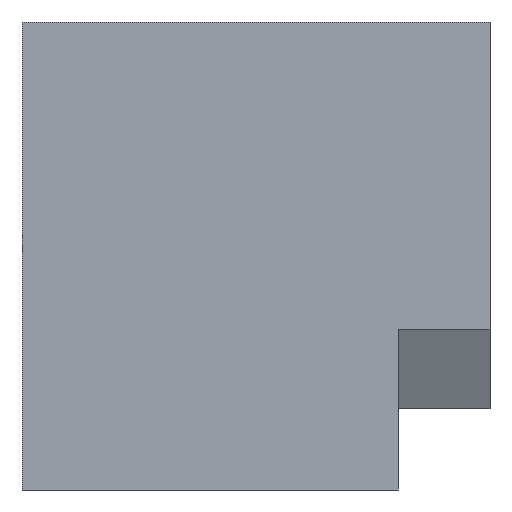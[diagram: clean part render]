
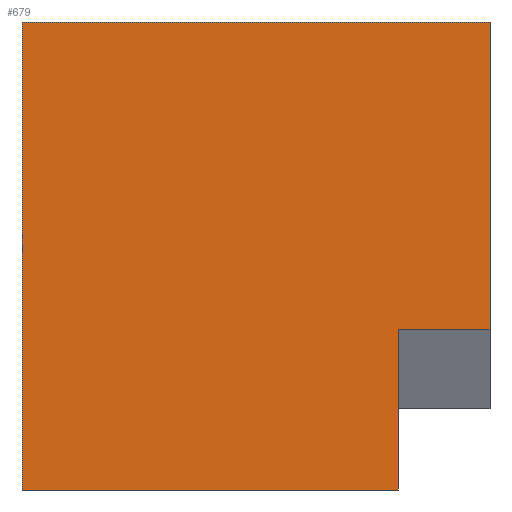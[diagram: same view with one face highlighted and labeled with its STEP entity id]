
A CAD part, left-side view. The second image highlights one B-rep face of the part: STEP entity #679.
In plain terms, the highlighted planar face has unit normal (-1, 0, 0).
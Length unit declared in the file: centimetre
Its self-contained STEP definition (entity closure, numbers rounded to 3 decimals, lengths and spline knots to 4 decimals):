
#14 = CARTESIAN_POINT ( 'NONE',  ( 0., 195.9836, 343.5773 ) ) ;
#33 = DIRECTION ( 'NONE',  ( 0., -1., 0. ) ) ;
#45 = VECTOR ( 'NONE', #234, 100. ) ;
#48 = ORIENTED_EDGE ( 'NONE', *, *, #692, .F. ) ;
#69 = CARTESIAN_POINT ( 'NONE',  ( 0., 1000., 1000. ) ) ;
#75 = VERTEX_POINT ( 'NONE', #476 ) ;
#82 = DIRECTION ( 'NONE',  ( 0., -1., 0. ) ) ;
#83 = EDGE_CURVE ( 'NONE', #136, #526, #254, .T. ) ;
#87 = LINE ( 'NONE', #686, #700 ) ;
#133 = DIRECTION ( 'NONE',  ( 0., 0., -1. ) ) ;
#136 = VERTEX_POINT ( 'NONE', #246 ) ;
#158 = VECTOR ( 'NONE', #521, 100. ) ;
#190 = CARTESIAN_POINT ( 'NONE',  ( 0., 195.9836, 343.5773 ) ) ;
#197 = CARTESIAN_POINT ( 'NONE',  ( 0., 1000., 1000. ) ) ;
#210 = EDGE_CURVE ( 'NONE', #464, #361, #245, .T. ) ;
#220 = CARTESIAN_POINT ( 'NONE',  ( 0., 0., 1000. ) ) ;
#234 = DIRECTION ( 'NONE',  ( 0., 0., -1. ) ) ;
#238 = VECTOR ( 'NONE', #343, 100. ) ;
#245 = LINE ( 'NONE', #190, #502 ) ;
#246 = CARTESIAN_POINT ( 'NONE',  ( 0., 1000., 1000. ) ) ;
#254 = LINE ( 'NONE', #197, #158 ) ;
#281 = CARTESIAN_POINT ( 'NONE',  ( 0., 1000., 0. ) ) ;
#343 = DIRECTION ( 'NONE',  ( 0., 0., -1. ) ) ;
#361 = VERTEX_POINT ( 'NONE', #368 ) ;
#363 = ORIENTED_EDGE ( 'NONE', *, *, #588, .T. ) ;
#368 = CARTESIAN_POINT ( 'NONE',  ( 0., 0., 343.5773 ) ) ;
#394 = LINE ( 'NONE', #14, #238 ) ;
#395 = VECTOR ( 'NONE', #82, 100. ) ;
#450 = PLANE ( 'NONE',  #574 ) ;
#452 = VERTEX_POINT ( 'NONE', #220 ) ;
#464 = VERTEX_POINT ( 'NONE', #545 ) ;
#476 = CARTESIAN_POINT ( 'NONE',  ( 0., 195.9836, 0. ) ) ;
#502 = VECTOR ( 'NONE', #691, 100. ) ;
#505 = CARTESIAN_POINT ( 'NONE',  ( 0., 0., 1000. ) ) ;
#510 = ORIENTED_EDGE ( 'NONE', *, *, #83, .T. ) ;
#521 = DIRECTION ( 'NONE',  ( 0., 0., -1. ) ) ;
#526 = VERTEX_POINT ( 'NONE', #281 ) ;
#545 = CARTESIAN_POINT ( 'NONE',  ( 0., 195.9836, 343.5773 ) ) ;
#565 = LINE ( 'NONE', #572, #395 ) ;
#572 = CARTESIAN_POINT ( 'NONE',  ( 0., 1000., 0. ) ) ;
#574 = AXIS2_PLACEMENT_3D ( 'NONE', #69, #625, #133 ) ;
#578 = ORIENTED_EDGE ( 'NONE', *, *, #667, .F. ) ;
#588 = EDGE_CURVE ( 'NONE', #526, #75, #565, .T. ) ;
#625 = DIRECTION ( 'NONE',  ( 1., 0., 0. ) ) ;
#629 = LINE ( 'NONE', #505, #45 ) ;
#640 = ORIENTED_EDGE ( 'NONE', *, *, #210, .T. ) ;
#667 = EDGE_CURVE ( 'NONE', #452, #361, #629, .T. ) ;
#674 = EDGE_CURVE ( 'NONE', #464, #75, #394, .T. ) ;
#675 = FACE_OUTER_BOUND ( 'NONE', #688, .T. ) ;
#679 = ADVANCED_FACE ( 'NONE', ( #675 ), #450, .F. ) ;
#686 = CARTESIAN_POINT ( 'NONE',  ( 0., 1000., 1000. ) ) ;
#688 = EDGE_LOOP ( 'NONE', ( #707, #640, #578, #48, #510, #363 ) ) ;
#691 = DIRECTION ( 'NONE',  ( 0., -1., 0. ) ) ;
#692 = EDGE_CURVE ( 'NONE', #136, #452, #87, .T. ) ;
#700 = VECTOR ( 'NONE', #33, 100. ) ;
#707 = ORIENTED_EDGE ( 'NONE', *, *, #674, .F. ) ;
